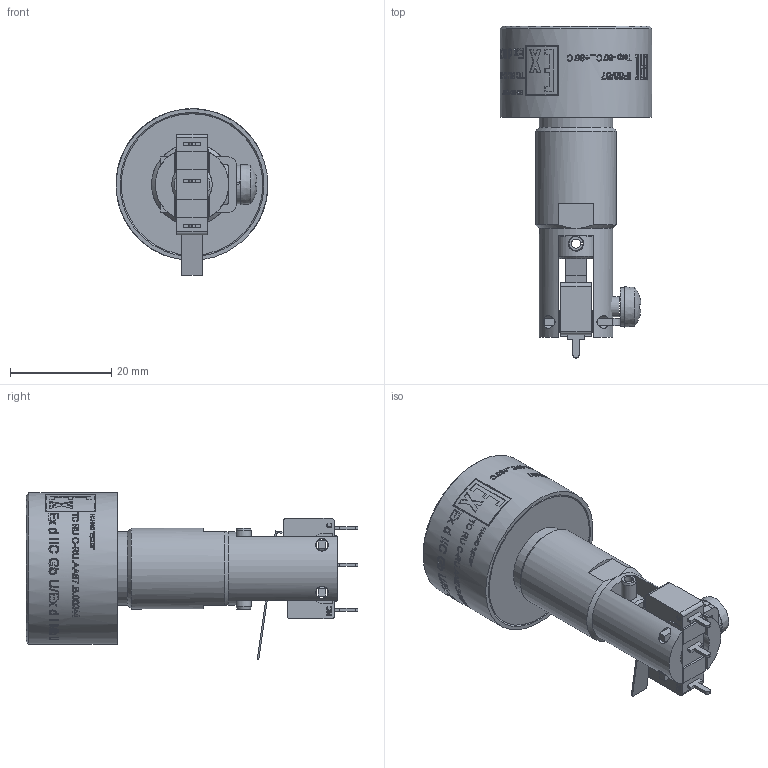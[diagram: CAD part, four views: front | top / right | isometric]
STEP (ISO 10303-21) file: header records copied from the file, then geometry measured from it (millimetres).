
FILE_DESCRIPTION((''),'2;1');
FILE_NAME('\\192.168.5.25\cortem_klient\INVENTOR БАЗА МОДЕЛЕЙ\Актуальная база моделей для отдела продаж\Элементы управления и индикации\КГВ12\КГВ12Н.stp','2019-04-09T15:09:18',('A.S.Kozlov'),(''),'Autodesk Inventor 2012','Autodesk Inventor 2012','');
FILE_SCHEMA(('CONFIG_CONTROL_DESIGN'));
Length unit declared in the file: millimetre
Products named in the file (1): КГВ12Н_Внешний контур_1
Bounding box: 30 x 65.6 x 32.94 mm (x, y, z)
Surface area: 10479.5 mm2 (no closed solid volume)
Topology: 0 solids, 56 shells, 307 faces, 2401 edges, 2134 vertices
Faces by surface type: plane 125, cylinder 114, bspline 55, cone 11, sphere 1, torus 1
Full cylindrical faces by diameter (mm): 2.5 x4, 3.65 x1, 4 x1, 8 x2, 14.5 x2, 16 x1, 19.5 x1, 19.8 x1, 28 x1, 30 x1
Entity records: 68442 total; most frequent: CARTESIAN_POINT 52127, ORIENTED_EDGE 2848, DIRECTION 2595, EDGE_CURVE 2362, VERTEX_POINT 2121, VECTOR 891, LINE 891, AXIS2_PLACEMENT_3D 852
